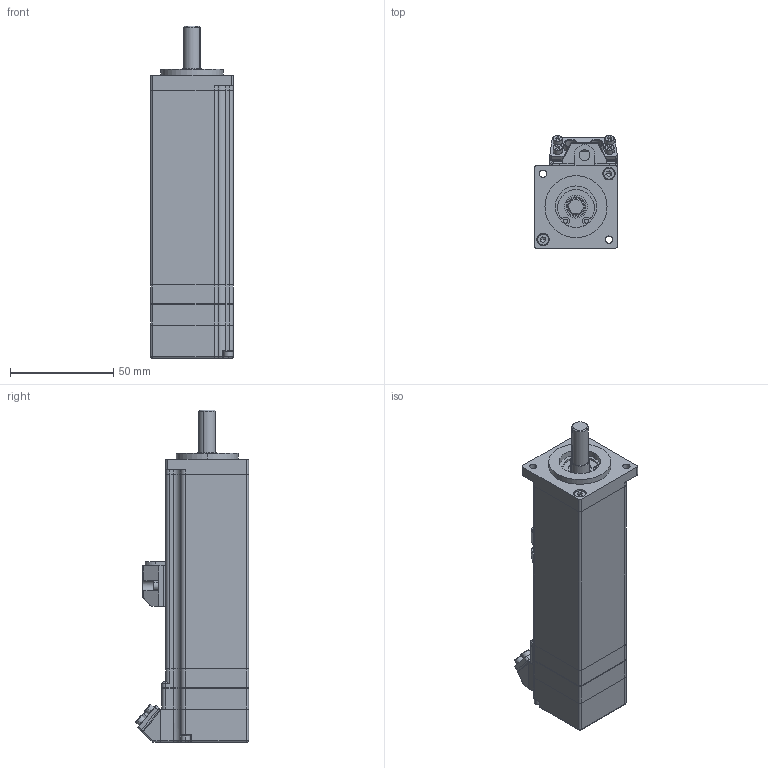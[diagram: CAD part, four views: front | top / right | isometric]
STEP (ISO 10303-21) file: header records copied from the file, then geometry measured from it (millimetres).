
FILE_DESCRIPTION (( 'STEP AP203' ), '1' );
FILE_NAME ('SMH40-1030B10EBL-2增量旋变三维光轴.STEP', '2020-03-18T05:45:47', ( 'user' ), ( '' ), 'SwSTEP 2.0', 'SolidWorks 2016', '' );
FILE_SCHEMA (( 'CONFIG_CONTROL_DESIGN' ));
Length unit declared in the file: millimetre
Products named in the file (1): SMH40-1030B10EBL-2增量旋变三维光轴
Bounding box: 40 x 54.65 x 160.4 mm (x, y, z)
Volume: 91578 mm3; surface area: 67251.1 mm2
Topology: 24 solids, 24 shells, 1014 faces, 2769 edges, 1764 vertices
Faces by surface type: cylinder 424, plane 383, torus 106, cone 56, sphere 43, bspline 2
Entity records: 32717 total; most frequent: CARTESIAN_POINT 6967, DIRECTION 5596, ORIENTED_EDGE 5298, EDGE_CURVE 2649, AXIS2_PLACEMENT_3D 2205, VERTEX_POINT 1702, CIRCLE 1192, LINE 1186
